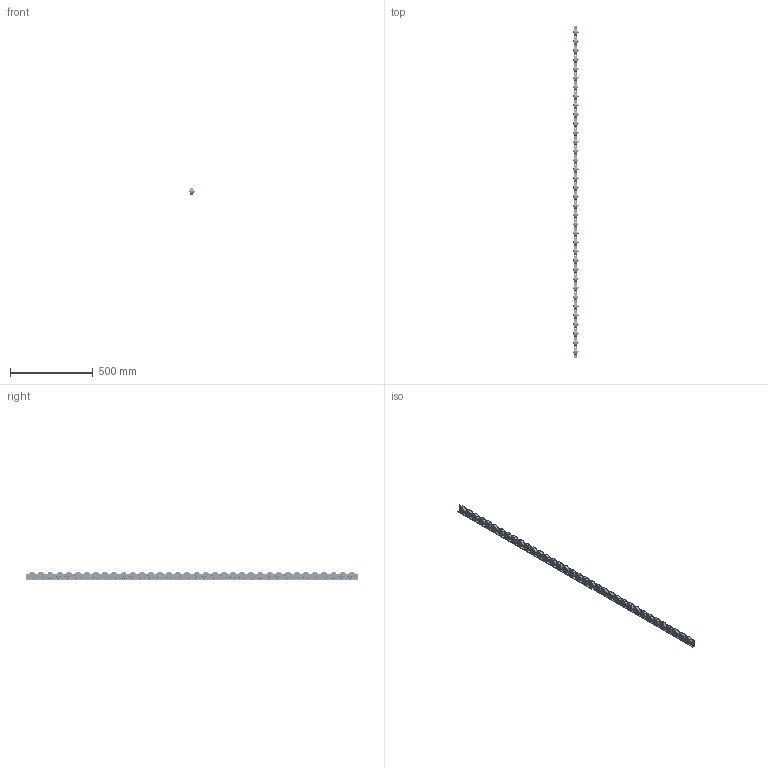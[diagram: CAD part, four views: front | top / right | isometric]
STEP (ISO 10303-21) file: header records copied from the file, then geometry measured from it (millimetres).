
FILE_DESCRIPTION( ( 'Unknown' ), '1' );
FILE_NAME( 'D:/Construktor/Listwy rolkowe 2015/Listwa T801/Listwa T801.stp', 'Unknown', ( 'Unknown' ), ( 'Unknown' ), 'PSStep 17.0.49', 'Unknown', ' ' );
FILE_SCHEMA( ( 'AUTOMOTIVE_DESIGN { 1 0 10303 214 1 1 1 1 }' ) );
Length unit declared in the file: millimetre
Products named in the file (9): Assem1; DIN_931_M8x35; DIN_931_M8x35-oa0; DIN_931_M8x35-oa1; Nut_DIN_980_M_M8_v10.50; Ceownik T800G; Rolka 611; Rolka 611-oa2; Rolka 611-oa3
Assembly tree (109 placements, depth 2):
  Assem1
    DIN_931_M8x35  x34
    DIN_931_M8x35-oa0
    DIN_931_M8x35-oa1
    Nut_DIN_980_M_M8_v10.50  x36
    Ceownik T800G
    Rolka 611  x34
    Rolka 611-oa2
    Rolka 611-oa3
Bounding box: 30.3 x 2000 x 50 mm (x, y, z)
Volume: 931697.4 mm3; surface area: 571077.3 mm2
Topology: 109 solids, 109 shells, 3700 faces, 9204 edges, 6010 vertices
Faces by surface type: plane 2384, cylinder 560, cone 540, torus 216
Full cylindrical faces by diameter (mm): 6.2 x18, 6.466 x36, 6.647 x36, 6.697 x36, 8 x72, 8.2 x36, 8.3 x36, 8.4 x36, 11.63 x36, 12.5 x36, 14 x72, 30 x36, 32 x36, 42 x36
Entity records: 12978 total; most frequent: CARTESIAN_POINT 1995, DIRECTION 1812, ORIENTED_EDGE 1380, AXIS2_PLACEMENT_3D 755, EDGE_CURVE 690, EDGE_LOOP 558, VERTEX_POINT 514, FACE_OUTER_BOUND 417
